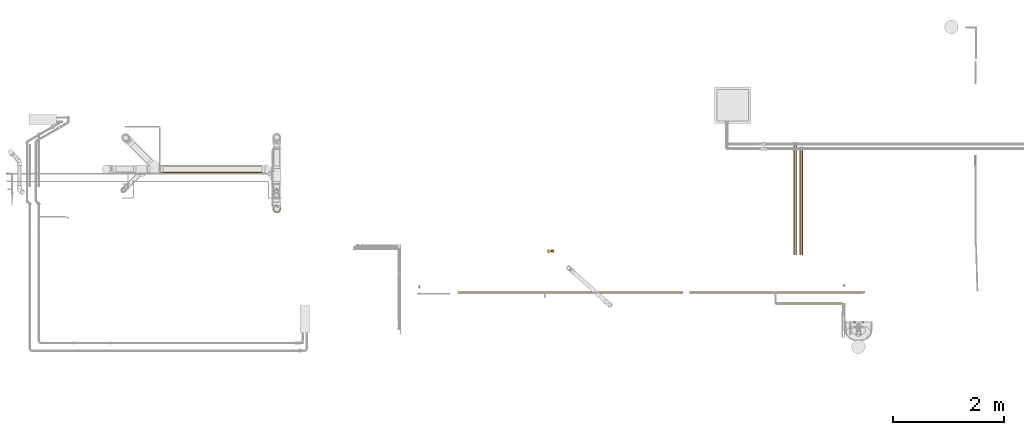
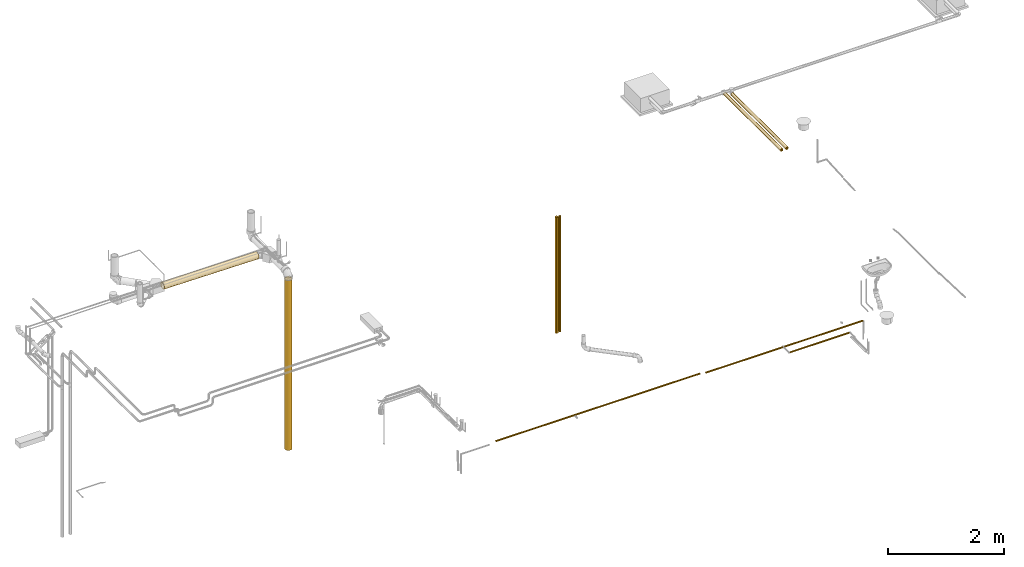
# One storey, part 1 of 108: 10 coverings.
"""IFC2X3 building model written with IfcOpenShell, lengths in millimetres."""

from ifc_helpers import new_model, entity, si_unit, converted_unit, derived_unit, direction, frame, origin_with_axes, origin_2d_with_axis, place, context, subcontext, project, spatial, hollow_circle, extrude, source, transform, mapped, element, save


model = new_model("IFC2X3")

# Units and contexts
model_context = context("Model", 3, precision=0.01, world=frame((0.0, 4.29681676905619e-09, 0.0)), true_north=direction((4.01073788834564e-13, 1.0)))
plan_context = context("Plan", 3, precision=0.01, world=frame((0.0, 4.29681676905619e-09, 0.0)), true_north=direction((4.01073788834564e-13, 1.0)))
body_context = subcontext(model_context, "Body", "Model", "MODEL_VIEW")
ifc_project = project(units=[converted_unit("PLANEANGLEUNIT", "DEGREE", entity("IfcPositiveLengthMeasure", 0.0174532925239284), si_unit("PLANEANGLEUNIT", "RADIAN"), dimensions=[0, 0, 0, 0, 0, 0, 0]), si_unit("AREAUNIT", "SQUARE_METRE"), si_unit("LENGTHUNIT", "METRE", prefix="MILLI"), si_unit("MASSUNIT", "GRAM", prefix="KILO"), si_unit("POWERUNIT", "WATT"), si_unit("PRESSUREUNIT", "PASCAL", prefix="KILO"), si_unit("FORCEUNIT", "NEWTON", prefix="KILO"), si_unit("ELECTRICVOLTAGEUNIT", "VOLT"), si_unit("ELECTRICCURRENTUNIT", "AMPERE"), si_unit("THERMODYNAMICTEMPERATUREUNIT", "DEGREE_CELSIUS"), si_unit("TIMEUNIT", "SECOND"), si_unit("VOLUMEUNIT", "CUBIC_METRE"), derived_unit("LINEARVELOCITYUNIT", [(si_unit("LENGTHUNIT", "METRE"), 1), (si_unit("TIMEUNIT", "SECOND"), -1)]), derived_unit("VOLUMETRICFLOWRATEUNIT", [(si_unit("VOLUMEUNIT", "CUBIC_METRE"), 1), (si_unit("TIMEUNIT", "SECOND"), -1)]), derived_unit("THERMALTRANSMITTANCEUNIT", [(si_unit("POWERUNIT", "WATT"), 1), (si_unit("THERMODYNAMICTEMPERATUREUNIT", "KELVIN"), -1), (si_unit("AREAUNIT", "SQUARE_METRE"), -1)]), derived_unit("SOUNDPRESSUREUNIT", [(si_unit("PRESSUREUNIT", "PASCAL"), 1)])], contexts=[model_context, plan_context])

# Site, building, storey
site_placement = place(None, frame((0.0, -4.29681676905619e-09, 0.0), z_axis=(0.0, 0.0, 1.0), x_axis=(1.0, 0.0, 0.0)))
site = spatial("IfcSite", under=ifc_project, at=site_placement, CompositionType="ELEMENT")
building_placement = place(site_placement, frame((0.0, 4.29681676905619e-09, 0.0), z_axis=(0.0, 0.0, 1.0), x_axis=(1.0, 0.0, 0.0)))
building = spatial("IfcBuilding", under=site, at=building_placement, Name="mc-building", CompositionType="ELEMENT")
storey_placement = place(building_placement, frame((0.0, 0.0, 210200.0), z_axis=(0.0, 0.0, 1.0), x_axis=(1.0, 0.0, 0.0)))
storey = spatial("IfcBuildingStorey", under=building, at=storey_placement, Name="Nivå F - 0,7 m", CompositionType="ELEMENT", Elevation=210200.0)

# Coverings
shared_shape_1 = source(origin_with_axes(), body_context, "Body", "SweptSolid", [
    extrude(hollow_circle(Radius=68.0, WallThickness=13.0, at=origin_2d_with_axis()), frame((0.0, 0.0, 0.0), z_axis=(1.0, 0.0, 0.0), x_axis=(0.0, 1.0, 0.0)), (0.0, 0.0, 1.0), 3582.3),
])
covering_1_placement = place(storey_placement, frame((328906.4829, 462815.28789, 2945.8132), z_axis=(0.0, 1.0, 0.0), x_axis=(0.0, 0.0, -1.0)))
element("IfcCovering", 1, at=covering_1_placement, inside=storey, Name="BI17T - Cellegummi 13 mm SPV fett", PredefinedType="INSULATION", context=body_context, shape_type="MappedRepresentation", body=[
    mapped(shared_shape_1, transform((0.0, 0.0, 0.0), scale=1.0)),
])
shared_shape_2 = source(origin_with_axes(), body_context, "Body", "SweptSolid", [
    extrude(hollow_circle(Radius=23.0, WallThickness=17.0, at=origin_2d_with_axis()), frame((0.0, 0.0, 0.0), z_axis=(1.0, 0.0, 0.0), x_axis=(0.0, 1.0, 0.0)), (0.0, 0.0, 1.0), 2440.0),
])
covering_2_placement = place(storey_placement, frame((333885.47035, 462052.00941, 550.0), z_axis=(1.0, 0.0, 0.0), x_axis=(0.0, 0.0, 1.0)))
element("IfcCovering", 2, at=covering_2_placement, inside=storey, Name="BI10T - Cellegummi 18-32 mm kalde rør", PredefinedType="INSULATION", context=body_context, shape_type="MappedRepresentation", body=[
    mapped(shared_shape_2, transform((0.0, 0.0, 0.0), scale=1.0)),
])
shared_shape_3 = source(origin_with_axes(), body_context, "Body", "SweptSolid", [
    extrude(hollow_circle(Radius=31.0, WallThickness=25.0, at=origin_2d_with_axis()), frame((0.0, 0.0, 0.0), z_axis=(1.0, 0.0, 0.0), x_axis=(0.0, 1.0, 0.0)), (0.0, 0.0, 1.0), 2440.0),
])
covering_3_placement = place(storey_placement, frame((333820.47035, 462052.00941, 550.0), z_axis=(1.0, 0.0, 0.0), x_axis=(0.0, 0.0, 1.0)))
element("IfcCovering", 3, at=covering_3_placement, inside=storey, Name="BI16T - Rørskål m/Al.folie - VV 40mm", PredefinedType="INSULATION", context=body_context, shape_type="MappedRepresentation", body=[
    mapped(shared_shape_3, transform((0.0, 0.0, 0.0), scale=1.0)),
])
shared_shape_4 = source(origin_with_axes(), body_context, "Body", "SweptSolid", [
    extrude(hollow_circle(Radius=30.5, WallThickness=18.0, at=origin_2d_with_axis()), frame((0.0, 0.0, 0.0), z_axis=(1.0, 0.0, 0.0), x_axis=(0.0, 1.0, 0.0)), (0.0, 0.0, 1.0), 1974.7),
])
covering_4_placement = place(storey_placement, frame((338272.06087, 463958.12358, 2880.0), z_axis=(0.0, 0.0, 1.0), x_axis=(0.0, -1.0, 0.0)))
element("IfcCovering", 4, at=covering_4_placement, inside=storey, Name="BI10T - Cellegummi 18-32 mm kalde rør", PredefinedType="INSULATION", context=body_context, shape_type="MappedRepresentation", body=[
    mapped(shared_shape_4, transform((0.0, 0.0, 0.0), scale=1.0)),
])
shared_shape_5 = source(origin_with_axes(), body_context, "Body", "SweptSolid", [
    extrude(hollow_circle(Radius=30.5, WallThickness=18.0, at=origin_2d_with_axis()), frame((0.0, 0.0, 0.0), z_axis=(1.0, 0.0, 0.0), x_axis=(0.0, 1.0, 0.0)), (0.0, 0.0, 1.0), 1886.2),
])
covering_5_placement = place(storey_placement, frame((338377.15694, 461983.47395, 2880.0), z_axis=(0.0, 0.0, 1.0), x_axis=(0.0, 1.0, 0.0)))
element("IfcCovering", 5, at=covering_5_placement, inside=storey, Name="BI10T - Cellegummi 18-32 mm kalde rør", PredefinedType="INSULATION", context=body_context, shape_type="MappedRepresentation", body=[
    mapped(shared_shape_5, transform((0.0, 0.0, 0.0), scale=1.0)),
])
shared_shape_6 = source(origin_with_axes(), body_context, "Body", "SweptSolid", [
    extrude(hollow_circle(Radius=68.0, WallThickness=13.0, at=origin_2d_with_axis()), frame((0.0, 0.0, 0.0), z_axis=(1.0, 0.0, 0.0), x_axis=(0.0, 1.0, 0.0)), (0.0, 0.0, 1.0), 1884.6),
])
covering_6_placement = place(storey_placement, frame((326810.56172, 463531.64264, 3092.85264), z_axis=(-4.20000147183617e-05, -0.99999135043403, -0.00415900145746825), x_axis=(0.999950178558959, -4.82758079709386e-07, -0.00998200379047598)))
element("IfcCovering", 6, at=covering_6_placement, inside=storey, Name="BI17T - Cellegummi 13 mm SPV fett", PredefinedType="INSULATION", context=body_context, shape_type="MappedRepresentation", body=[
    mapped(shared_shape_6, transform((0.0, 0.0, 0.0), scale=1.0)),
])
shared_shape_7 = source(origin_with_axes(), body_context, "Body", "SweptSolid", [
    extrude(hollow_circle(Radius=16.0, WallThickness=10.0, at=origin_2d_with_axis()), frame((0.0, 0.0, 0.0), z_axis=(1.0, 0.0, 0.0), x_axis=(0.0, 1.0, 0.0)), (0.0, 0.0, 1.0), 1573.5),
])
covering_7_placement = place(storey_placement, frame((337926.44674, 461303.19294, -735.809999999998), z_axis=(9.9999999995e-06, 0.0, 0.99999999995), x_axis=(0.99999999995, 0.0, -9.9999999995e-06)))
element("IfcCovering", 7, at=covering_7_placement, inside=storey, Name="BI10T - Cellegummi 18-32 mm kalde rør", PredefinedType="INSULATION", context=body_context, shape_type="MappedRepresentation", body=[
    mapped(shared_shape_7, transform((0.0, 0.0, 0.0), scale=1.0)),
])
shared_shape_8 = source(origin_with_axes(), body_context, "Body", "SweptSolid", [
    extrude(hollow_circle(Radius=16.0, WallThickness=10.0, at=origin_2d_with_axis()), frame((0.0, 0.0, 0.0), z_axis=(1.0, 0.0, 0.0), x_axis=(0.0, 1.0, 0.0)), (0.0, 0.0, 1.0), 1188.5),
])
covering_8_placement = place(storey_placement, frame((337926.44674, 461107.00941, -735.809999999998), z_axis=(0.0, 0.0, 1.0), x_axis=(1.0, 0.0, 0.0)))
element("IfcCovering", 8, at=covering_8_placement, inside=storey, Name="BI10T - Cellegummi 18-32 mm kalde rør", PredefinedType="INSULATION", context=body_context, shape_type="MappedRepresentation", body=[
    mapped(shared_shape_8, transform((0.0, 0.0, 0.0), scale=1.0)),
])
shared_shape_9 = source(origin_with_axes(), body_context, "Body", "SweptSolid", [
    extrude(hollow_circle(Radius=16.0, WallThickness=10.0, at=origin_2d_with_axis()), frame((0.0, 0.0, 0.0), z_axis=(1.0, 0.0, 0.0), x_axis=(0.0, 1.0, 0.0)), (0.0, 0.0, 1.0), 1543.1),
])
covering_9_placement = place(storey_placement, frame((337902.44674, 461303.19294, -735.809999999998), z_axis=(0.0, 0.0, 1.0), x_axis=(-1.0, 0.0, 0.0)))
element("IfcCovering", 9, at=covering_9_placement, inside=storey, Name="BI10T - Cellegummi 18-32 mm kalde rør", PredefinedType="INSULATION", context=body_context, shape_type="MappedRepresentation", body=[
    mapped(shared_shape_9, transform((0.0, 0.0, 0.0), scale=1.0)),
])
shared_shape_10 = source(origin_with_axes(), body_context, "Body", "SweptSolid", [
    extrude(hollow_circle(Radius=16.0, WallThickness=10.0, at=origin_2d_with_axis()), frame((0.0, 0.0, 0.0), z_axis=(1.0, 0.0, 0.0), x_axis=(0.0, 1.0, 0.0)), (0.0, 0.0, 1.0), 4074.9),
])
covering_10_placement = place(storey_placement, frame((336246.23933, 461303.19294, -713.310479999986), z_axis=(0.0, 0.874164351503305, 0.485630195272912), x_axis=(-1.0, 0.0, 0.0)))
element("IfcCovering", 10, at=covering_10_placement, inside=storey, Name="BI10T - Cellegummi 18-32 mm kalde rør", PredefinedType="INSULATION", context=body_context, shape_type="MappedRepresentation", body=[
    mapped(shared_shape_10, transform((0.0, 0.0, 0.0), scale=1.0)),
])

save(model, "model.ifc")
